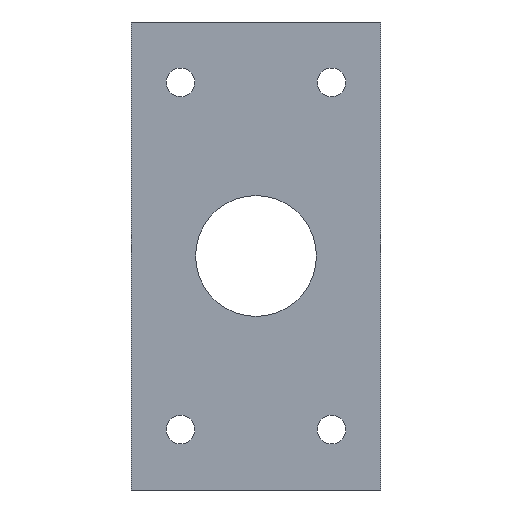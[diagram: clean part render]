
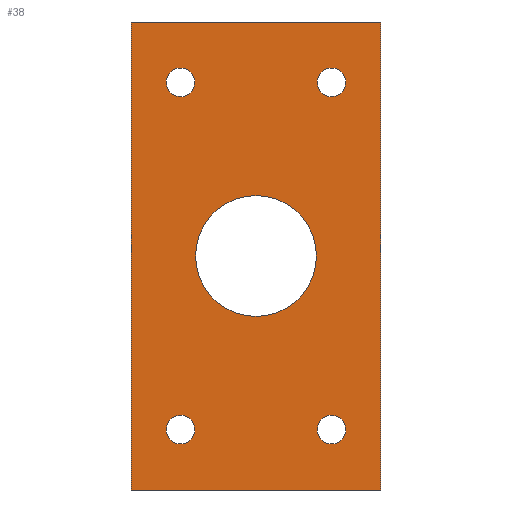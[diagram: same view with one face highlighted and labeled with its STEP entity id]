
A CAD part, front view. The second image highlights one B-rep face of the part: STEP entity #38.
In plain terms, the highlighted planar face has unit normal (0, -1, 0).
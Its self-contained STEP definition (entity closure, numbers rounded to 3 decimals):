
#38=ADVANCED_FACE('',(#88,#89,#90,#91,#92,#63),#283,.T.);
#63=FACE_OUTER_BOUND('',#112,.F.);
#88=FACE_BOUND('',#107,.F.);
#89=FACE_BOUND('',#108,.F.);
#90=FACE_BOUND('',#109,.F.);
#91=FACE_BOUND('',#110,.F.);
#92=FACE_BOUND('',#111,.F.);
#107=EDGE_LOOP('',(#157,#158));
#108=EDGE_LOOP('',(#159,#160));
#109=EDGE_LOOP('',(#161,#162));
#110=EDGE_LOOP('',(#163,#164));
#111=EDGE_LOOP('',(#165,#166));
#112=EDGE_LOOP('',(#167,#168,#169,#170));
#157=ORIENTED_EDGE('',*,*,#377,.T.);
#158=ORIENTED_EDGE('',*,*,#376,.T.);
#159=ORIENTED_EDGE('',*,*,#385,.T.);
#160=ORIENTED_EDGE('',*,*,#384,.T.);
#161=ORIENTED_EDGE('',*,*,#370,.T.);
#162=ORIENTED_EDGE('',*,*,#371,.T.);
#163=ORIENTED_EDGE('',*,*,#381,.T.);
#164=ORIENTED_EDGE('',*,*,#380,.T.);
#165=ORIENTED_EDGE('',*,*,#373,.T.);
#166=ORIENTED_EDGE('',*,*,#372,.T.);
#167=ORIENTED_EDGE('',*,*,#367,.T.);
#168=ORIENTED_EDGE('',*,*,#389,.T.);
#169=ORIENTED_EDGE('',*,*,#366,.T.);
#170=ORIENTED_EDGE('',*,*,#388,.T.);
#283=PLANE('',#615);
#306=LINE('',#842,#334);
#307=LINE('',#843,#335);
#308=LINE('',#864,#336);
#309=LINE('',#865,#337);
#334=VECTOR('',#658,31.);
#335=VECTOR('',#659,31.);
#336=VECTOR('',#700,16.5);
#337=VECTOR('',#701,16.5);
#366=EDGE_CURVE('',#492,#490,#306,.T.);
#367=EDGE_CURVE('',#488,#494,#307,.T.);
#370=EDGE_CURVE('',#485,#484,#430,.T.);
#371=EDGE_CURVE('',#484,#485,#431,.T.);
#372=EDGE_CURVE('',#483,#482,#432,.T.);
#373=EDGE_CURVE('',#482,#483,#433,.T.);
#376=EDGE_CURVE('',#479,#478,#436,.T.);
#377=EDGE_CURVE('',#478,#479,#437,.T.);
#380=EDGE_CURVE('',#475,#474,#440,.T.);
#381=EDGE_CURVE('',#474,#475,#441,.T.);
#384=EDGE_CURVE('',#471,#470,#444,.T.);
#385=EDGE_CURVE('',#470,#471,#445,.T.);
#388=EDGE_CURVE('',#490,#488,#308,.T.);
#389=EDGE_CURVE('',#494,#492,#309,.T.);
#430=CIRCLE('',#591,4.);
#431=CIRCLE('',#592,4.);
#432=CIRCLE('',#593,0.95);
#433=CIRCLE('',#594,0.95);
#436=CIRCLE('',#597,0.95);
#437=CIRCLE('',#598,0.95);
#440=CIRCLE('',#601,0.95);
#441=CIRCLE('',#602,0.95);
#444=CIRCLE('',#605,0.95);
#445=CIRCLE('',#606,0.95);
#470=VERTEX_POINT('',#802);
#471=VERTEX_POINT('',#803);
#474=VERTEX_POINT('',#806);
#475=VERTEX_POINT('',#807);
#478=VERTEX_POINT('',#810);
#479=VERTEX_POINT('',#811);
#482=VERTEX_POINT('',#814);
#483=VERTEX_POINT('',#815);
#484=VERTEX_POINT('',#816);
#485=VERTEX_POINT('',#817);
#488=VERTEX_POINT('',#820);
#490=VERTEX_POINT('',#822);
#492=VERTEX_POINT('',#824);
#494=VERTEX_POINT('',#826);
#591=AXIS2_PLACEMENT_3D('',#846,#664,#665);
#592=AXIS2_PLACEMENT_3D('',#847,#666,#667);
#593=AXIS2_PLACEMENT_3D('',#848,#668,#669);
#594=AXIS2_PLACEMENT_3D('',#849,#670,#671);
#597=AXIS2_PLACEMENT_3D('',#852,#676,#677);
#598=AXIS2_PLACEMENT_3D('',#853,#678,#679);
#601=AXIS2_PLACEMENT_3D('',#856,#684,#685);
#602=AXIS2_PLACEMENT_3D('',#857,#686,#687);
#605=AXIS2_PLACEMENT_3D('',#860,#692,#693);
#606=AXIS2_PLACEMENT_3D('',#861,#694,#695);
#615=AXIS2_PLACEMENT_3D('',#1018,#732,#733);
#658=DIRECTION('',(0.,0.,1.));
#659=DIRECTION('',(0.,0.,-1.));
#664=DIRECTION('',(0.,-1.,0.));
#665=DIRECTION('',(0.,0.,-1.));
#666=DIRECTION('',(0.,-1.,0.));
#667=DIRECTION('',(0.,0.,1.));
#668=DIRECTION('',(0.,-1.,0.));
#669=DIRECTION('',(0.,0.,1.));
#670=DIRECTION('',(0.,-1.,0.));
#671=DIRECTION('',(0.,0.,-1.));
#676=DIRECTION('',(0.,-1.,0.));
#677=DIRECTION('',(0.,0.,1.));
#678=DIRECTION('',(0.,-1.,0.));
#679=DIRECTION('',(0.,0.,-1.));
#684=DIRECTION('',(0.,-1.,0.));
#685=DIRECTION('',(0.,0.,1.));
#686=DIRECTION('',(0.,-1.,0.));
#687=DIRECTION('',(0.,0.,-1.));
#692=DIRECTION('',(0.,-1.,0.));
#693=DIRECTION('',(0.,0.,1.));
#694=DIRECTION('',(0.,-1.,0.));
#695=DIRECTION('',(0.,0.,-1.));
#700=DIRECTION('',(1.,0.,0.));
#701=DIRECTION('',(-1.,0.,0.));
#732=DIRECTION('',(0.,-1.,0.));
#733=DIRECTION('',(-1.,0.,0.));
#802=CARTESIAN_POINT('',(205.,0.725,220.825));
#803=CARTESIAN_POINT('',(205.,0.725,222.725));
#806=CARTESIAN_POINT('',(205.,0.725,197.825));
#807=CARTESIAN_POINT('',(205.,0.725,199.725));
#810=CARTESIAN_POINT('',(195.,0.725,197.825));
#811=CARTESIAN_POINT('',(195.,0.725,199.725));
#814=CARTESIAN_POINT('',(195.,0.725,220.825));
#815=CARTESIAN_POINT('',(195.,0.725,222.725));
#816=CARTESIAN_POINT('',(200.,0.725,214.275));
#817=CARTESIAN_POINT('',(200.,0.725,206.275));
#820=CARTESIAN_POINT('',(208.25,0.725,225.775));
#822=CARTESIAN_POINT('',(191.75,0.725,225.775));
#824=CARTESIAN_POINT('',(191.75,0.725,194.775));
#826=CARTESIAN_POINT('',(208.25,0.725,194.775));
#842=CARTESIAN_POINT('',(191.75,0.725,194.775));
#843=CARTESIAN_POINT('',(208.25,0.725,225.775));
#846=CARTESIAN_POINT('',(200.,0.725,210.275));
#847=CARTESIAN_POINT('',(200.,0.725,210.275));
#848=CARTESIAN_POINT('',(195.,0.725,221.775));
#849=CARTESIAN_POINT('',(195.,0.725,221.775));
#852=CARTESIAN_POINT('',(195.,0.725,198.775));
#853=CARTESIAN_POINT('',(195.,0.725,198.775));
#856=CARTESIAN_POINT('',(205.,0.725,198.775));
#857=CARTESIAN_POINT('',(205.,0.725,198.775));
#860=CARTESIAN_POINT('',(205.,0.725,221.775));
#861=CARTESIAN_POINT('',(205.,0.725,221.775));
#864=CARTESIAN_POINT('',(191.75,0.725,225.775));
#865=CARTESIAN_POINT('',(208.25,0.725,194.775));
#1018=CARTESIAN_POINT('',(208.56,0.725,226.085));
